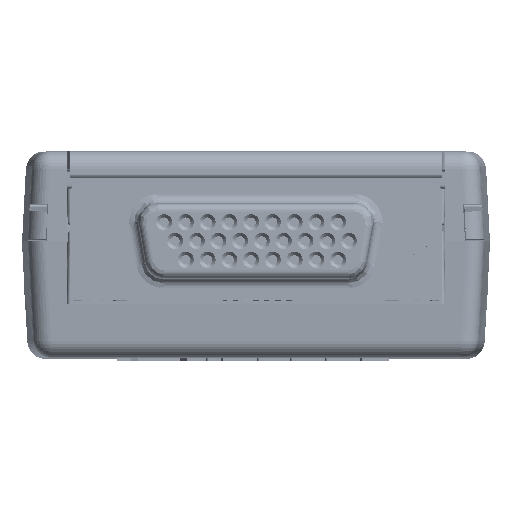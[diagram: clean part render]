
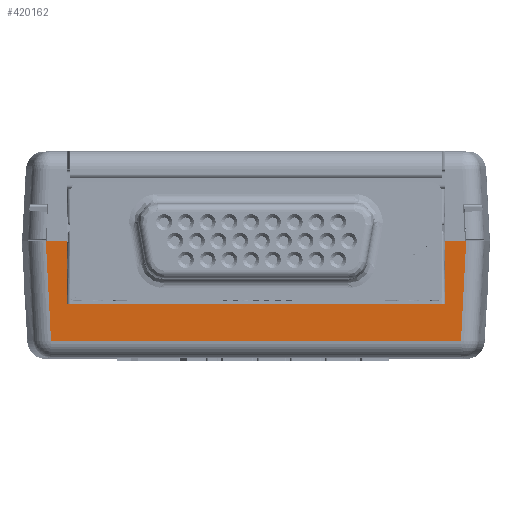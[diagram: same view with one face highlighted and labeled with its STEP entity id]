
A CAD part, top view. The second image highlights one B-rep face of the part: STEP entity #420162.
In plain terms, the highlighted planar face has unit normal (0, -0.052, 0.999).
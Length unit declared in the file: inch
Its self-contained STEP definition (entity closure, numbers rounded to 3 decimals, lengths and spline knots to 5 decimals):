
#2195 = CARTESIAN_POINT ( 'NONE',  ( -1.7315, 0.484, 0. ) ) ;
#19576 = DIRECTION ( 'NONE',  ( 0.052, 0.997, 0.052 ) ) ;
#33734 = DIRECTION ( 'NONE',  ( 0.052, -0.997, -0.052 ) ) ;
#52594 = CARTESIAN_POINT ( 'NONE',  ( -1.7315, 0.224, -0.01363 ) ) ;
#53948 = DIRECTION ( 'NONE',  ( 0., -0.999, -0.052 ) ) ;
#62923 = EDGE_CURVE ( 'NONE', #460242, #135163, #215261, .T. ) ;
#72719 = ORIENTED_EDGE ( 'NONE', *, *, #409778, .T. ) ;
#101962 = DIRECTION ( 'NONE',  ( 0., -0.052, 0.999 ) ) ;
#108541 = VECTOR ( 'NONE', #143562, 39.37008 ) ;
#111241 = VERTEX_POINT ( 'NONE', #2195 ) ;
#112073 = ORIENTED_EDGE ( 'NONE', *, *, #232255, .T. ) ;
#117535 = CARTESIAN_POINT ( 'NONE',  ( -1.8181, 0.484, 0. ) ) ;
#123723 = VECTOR ( 'NONE', #19576, 39.37008 ) ;
#124559 = EDGE_CURVE ( 'NONE', #488553, #186607, #538173, .T. ) ;
#135163 = VERTEX_POINT ( 'NONE', #542303 ) ;
#140434 = VECTOR ( 'NONE', #349456, 39.37008 ) ;
#143562 = DIRECTION ( 'NONE',  ( 1., 0., 0. ) ) ;
#155049 = DIRECTION ( 'NONE',  ( 0., 0.999, 0.052 ) ) ;
#168885 = VERTEX_POINT ( 'NONE', #117535 ) ;
#181055 = EDGE_CURVE ( 'NONE', #483580, #460242, #496653, .T. ) ;
#186607 = VERTEX_POINT ( 'NONE', #258587 ) ;
#194634 = VECTOR ( 'NONE', #386355, 39.37008 ) ;
#197760 = LINE ( 'NONE', #408604, #108541 ) ;
#201550 = VECTOR ( 'NONE', #279808, 39.37008 ) ;
#211950 = EDGE_LOOP ( 'NONE', ( #343207, #112073, #543024, #72719, #411931, #434494, #229409, #342463 ) ) ;
#215261 = LINE ( 'NONE', #491460, #201550 ) ;
#217957 = EDGE_CURVE ( 'NONE', #111241, #514617, #436187, .T. ) ;
#218611 = CARTESIAN_POINT ( 'NONE',  ( -1.7315, 0.224, -0.01363 ) ) ;
#229409 = ORIENTED_EDGE ( 'NONE', *, *, #232102, .F. ) ;
#232102 = EDGE_CURVE ( 'NONE', #514617, #483580, #525727, .T. ) ;
#232255 = EDGE_CURVE ( 'NONE', #168885, #488553, #318912, .T. ) ;
#234956 = EDGE_CURVE ( 'NONE', #168885, #111241, #197760, .T. ) ;
#240355 = LINE ( 'NONE', #463425, #123723 ) ;
#258587 = CARTESIAN_POINT ( 'NONE',  ( -0.09654, 0.07107, -0.02164 ) ) ;
#276731 = CARTESIAN_POINT ( 'NONE',  ( -0.05012, 0.484, 0. ) ) ;
#279808 = DIRECTION ( 'NONE',  ( 1., 0., 0. ) ) ;
#280954 = CARTESIAN_POINT ( 'NONE',  ( -1.7315, 0.75346, 0.01412 ) ) ;
#294986 = CARTESIAN_POINT ( 'NONE',  ( -1.81327, 0.39185, -0.00483 ) ) ;
#308840 = CARTESIAN_POINT ( 'NONE',  ( -0.1615, 0.224, -0.01363 ) ) ;
#318912 = LINE ( 'NONE', #294986, #525203 ) ;
#322835 = PLANE ( 'NONE',  #364719 ) ;
#338238 = VECTOR ( 'NONE', #155049, 39.37008 ) ;
#342463 = ORIENTED_EDGE ( 'NONE', *, *, #217957, .F. ) ;
#343207 = ORIENTED_EDGE ( 'NONE', *, *, #234956, .F. ) ;
#349456 = DIRECTION ( 'NONE',  ( 1., 0., 0. ) ) ;
#364719 = AXIS2_PLACEMENT_3D ( 'NONE', #276731, #101962, #53948 ) ;
#386355 = DIRECTION ( 'NONE',  ( 1., 0., 0. ) ) ;
#408604 = CARTESIAN_POINT ( 'NONE',  ( -0.05012, 0.484, 0. ) ) ;
#409778 = EDGE_CURVE ( 'NONE', #186607, #135163, #240355, .T. ) ;
#411931 = ORIENTED_EDGE ( 'NONE', *, *, #62923, .F. ) ;
#415464 = DIRECTION ( 'NONE',  ( 0., -0.999, -0.052 ) ) ;
#420162 = ADVANCED_FACE ( 'NONE', ( #497542 ), #322835, .T. ) ;
#428606 = CARTESIAN_POINT ( 'NONE',  ( -0.02537, 0.07107, -0.02164 ) ) ;
#432090 = CARTESIAN_POINT ( 'NONE',  ( -0.1615, 0.484, 0. ) ) ;
#434494 = ORIENTED_EDGE ( 'NONE', *, *, #181055, .F. ) ;
#436187 = LINE ( 'NONE', #280954, #525509 ) ;
#460242 = VERTEX_POINT ( 'NONE', #432090 ) ;
#463425 = CARTESIAN_POINT ( 'NONE',  ( -0.07483, 0.48529, 0.00007 ) ) ;
#483580 = VERTEX_POINT ( 'NONE', #308840 ) ;
#488553 = VERTEX_POINT ( 'NONE', #498893 ) ;
#491460 = CARTESIAN_POINT ( 'NONE',  ( -0.05012, 0.484, 0. ) ) ;
#496653 = LINE ( 'NONE', #504836, #338238 ) ;
#497542 = FACE_OUTER_BOUND ( 'NONE', #211950, .T. ) ;
#498893 = CARTESIAN_POINT ( 'NONE',  ( -1.79646, 0.07107, -0.02164 ) ) ;
#504836 = CARTESIAN_POINT ( 'NONE',  ( -0.1615, 0.75346, 0.01412 ) ) ;
#514617 = VERTEX_POINT ( 'NONE', #52594 ) ;
#525203 = VECTOR ( 'NONE', #33734, 39.37008 ) ;
#525509 = VECTOR ( 'NONE', #415464, 39.37008 ) ;
#525727 = LINE ( 'NONE', #218611, #140434 ) ;
#538173 = LINE ( 'NONE', #428606, #194634 ) ;
#542303 = CARTESIAN_POINT ( 'NONE',  ( -0.0749, 0.484, 0. ) ) ;
#543024 = ORIENTED_EDGE ( 'NONE', *, *, #124559, .T. ) ;
